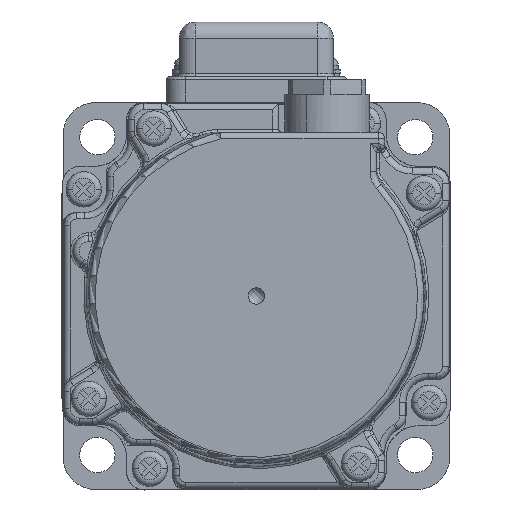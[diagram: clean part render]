
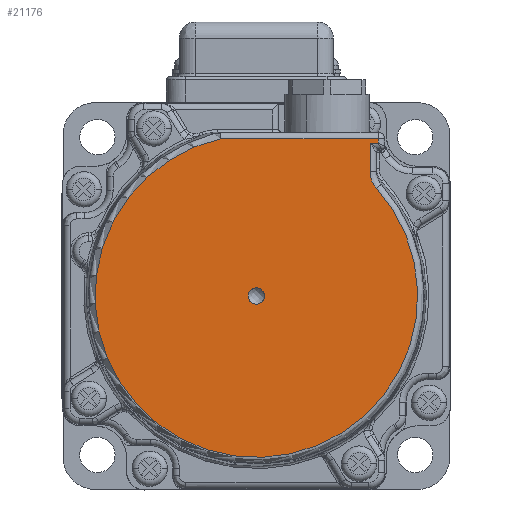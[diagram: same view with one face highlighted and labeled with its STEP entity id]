
A CAD part, left-side view. The second image highlights one B-rep face of the part: STEP entity #21176.
In plain terms, the highlighted planar face has unit normal (-1, 0, 0).
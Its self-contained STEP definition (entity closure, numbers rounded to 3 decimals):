
#4446=DIRECTION('',(0.,-1.,0.));
#4447=VECTOR('',#4446,24.57);
#4448=CARTESIAN_POINT('',(-107.,5.57,24.5));
#4449=LINE('',#4448,#4447);
#4469=CARTESIAN_POINT('',(-107.,-18.721,
16.757));
#4470=CARTESIAN_POINT('',(-107.,-18.501,
17.005));
#4471=CARTESIAN_POINT('',(-107.,-18.132,
17.533));
#4472=CARTESIAN_POINT('',(-107.,-17.778,18.458));
#4473=CARTESIAN_POINT('',(-107.,-17.701,19.097));
#4474=CARTESIAN_POINT('',(-107.,-17.7,19.429));
#4476=CARTESIAN_POINT('',(-107.,0.,0.));
#4477=DIRECTION('',(-1.,0.,0.));
#4478=DIRECTION('',(0.,0.304,-0.953));
#4479=AXIS2_PLACEMENT_3D('',#4476,#4477,#4478);
#4481=CARTESIAN_POINT('',(-107.,0.,0.));
#4482=DIRECTION('',(-1.,0.,0.));
#4483=DIRECTION('',(0.,0.222,0.975));
#4484=AXIS2_PLACEMENT_3D('',#4481,#4482,#4483);
#4486=CARTESIAN_POINT('',(-107.,1.269,
0.));
#4487=CARTESIAN_POINT('',(-107.,1.269,
0.137));
#4488=CARTESIAN_POINT('',(-107.,1.226,
0.397));
#4489=CARTESIAN_POINT('',(-107.,1.044,
0.759));
#4490=CARTESIAN_POINT('',(-107.,0.759,
1.043));
#4491=CARTESIAN_POINT('',(-107.,0.398,
1.226));
#4492=CARTESIAN_POINT('',(-107.,0.138,
1.269));
#4493=CARTESIAN_POINT('',(-107.,0.,
1.269));
#4495=CARTESIAN_POINT('',(-107.,0.,
-1.269));
#4496=CARTESIAN_POINT('',(-107.,0.138,
-1.269));
#4497=CARTESIAN_POINT('',(-107.,0.398,
-1.226));
#4498=CARTESIAN_POINT('',(-107.,0.759,
-1.043));
#4499=CARTESIAN_POINT('',(-107.,1.043,
-0.759));
#4500=CARTESIAN_POINT('',(-107.,1.226,
-0.398));
#4501=CARTESIAN_POINT('',(-107.,1.269,
-0.138));
#4502=CARTESIAN_POINT('',(-107.,1.269,
0.));
#4504=CARTESIAN_POINT('',(-107.,-1.269,
0.));
#4505=CARTESIAN_POINT('',(-107.,-1.269,
-0.138));
#4506=CARTESIAN_POINT('',(-107.,-1.226,
-0.398));
#4507=CARTESIAN_POINT('',(-107.,-1.043,
-0.759));
#4508=CARTESIAN_POINT('',(-107.,-0.759,
-1.043));
#4509=CARTESIAN_POINT('',(-107.,-0.398,
-1.226));
#4510=CARTESIAN_POINT('',(-107.,-0.138,
-1.269));
#4511=CARTESIAN_POINT('',(-107.,0.,
-1.269));
#4513=CARTESIAN_POINT('',(-107.,0.,
1.269));
#4514=CARTESIAN_POINT('',(-107.,-0.138,
1.269));
#4515=CARTESIAN_POINT('',(-107.,-0.398,
1.226));
#4516=CARTESIAN_POINT('',(-107.,-0.759,
1.043));
#4517=CARTESIAN_POINT('',(-107.,-1.043,
0.759));
#4518=CARTESIAN_POINT('',(-107.,-1.226,
0.398));
#4519=CARTESIAN_POINT('',(-107.,-1.269,
0.138));
#4520=CARTESIAN_POINT('',(-107.,-1.269,
0.));
#4531=DIRECTION('',(0.,0.,-1.));
#4532=VECTOR('',#4531,4.371);
#4533=CARTESIAN_POINT('',(-107.,-17.7,23.8));
#4534=LINE('',#4533,#4532);
#10881=DIRECTION('',(0.,0.,-1.));
#10882=VECTOR('',#10881,0.7);
#10883=CARTESIAN_POINT('',(-107.,-19.,
24.5));
#10884=LINE('',#10883,#10882);
#10885=DIRECTION('',(0.,1.,0.));
#10886=VECTOR('',#10885,1.3);
#10887=CARTESIAN_POINT('',(-107.,-19.,23.8));
#10888=LINE('',#10887,#10886);
#14444=CARTESIAN_POINT('',(-107.,-17.7,23.8));
#14445=CARTESIAN_POINT('',(-107.,-17.7,19.429));
#14446=VERTEX_POINT('',#14444);
#14447=VERTEX_POINT('',#14445);
#14448=CARTESIAN_POINT('',(-107.,-19.,23.8));
#14449=VERTEX_POINT('',#14448);
#14450=CARTESIAN_POINT('',(-107.,-19.,
24.5));
#14451=VERTEX_POINT('',#14450);
#14452=CARTESIAN_POINT('',(-107.,5.57,24.5));
#14453=VERTEX_POINT('',#14452);
#14454=CARTESIAN_POINT('',(-107.,7.63,
-23.938));
#14455=VERTEX_POINT('',#14454);
#14456=CARTESIAN_POINT('',(-107.,-18.721,
16.757));
#14457=VERTEX_POINT('',#14456);
#14458=VERTEX_POINT('',#4486);
#14459=VERTEX_POINT('',#4493);
#14460=VERTEX_POINT('',#4520);
#14461=VERTEX_POINT('',#4511);
#21146=CARTESIAN_POINT('',(-107.,-0.007,-0.313));
#21147=DIRECTION('',(1.,0.,0.));
#21148=DIRECTION('',(0.,0.,1.));
#21149=AXIS2_PLACEMENT_3D('',#21146,#21147,#21148);
#21150=PLANE('',#21149);
#21152=ORIENTED_EDGE('',*,*,#21151,.T.);
#21154=ORIENTED_EDGE('',*,*,#21153,.F.);
#21156=ORIENTED_EDGE('',*,*,#21155,.F.);
#21158=ORIENTED_EDGE('',*,*,#21157,.F.);
#21159=ORIENTED_EDGE('',*,*,#21131,.T.);
#21161=ORIENTED_EDGE('',*,*,#21160,.T.);
#21163=ORIENTED_EDGE('',*,*,#21162,.T.);
#21164=EDGE_LOOP('',(#21152,#21154,#21156,#21158,#21159,#21161,#21163));
#21165=FACE_OUTER_BOUND('',#21164,.F.);
#21167=ORIENTED_EDGE('',*,*,#21166,.F.);
#21169=ORIENTED_EDGE('',*,*,#21168,.F.);
#21171=ORIENTED_EDGE('',*,*,#21170,.F.);
#21173=ORIENTED_EDGE('',*,*,#21172,.F.);
#21174=EDGE_LOOP('',(#21167,#21169,#21171,#21173));
#21175=FACE_BOUND('',#21174,.F.);
#4475=B_SPLINE_CURVE_WITH_KNOTS('',3,(#4469,#4470,#4471,#4472,#4473,#4474),
.UNSPECIFIED.,.F.,.F.,(4,1,1,4),(0.,0.333,0.667,1.),
.UNSPECIFIED.);
#4480=CIRCLE('',#4479,25.125);
#4485=CIRCLE('',#4484,25.125);
#4494=B_SPLINE_CURVE_WITH_KNOTS('',3,(#4486,#4487,#4488,#4489,#4490,#4491,#4492,
#4493),.UNSPECIFIED.,.F.,.F.,(4,1,1,1,1,4),(0.,0.2,0.4,0.6,0.8,1.),
.UNSPECIFIED.);
#4503=B_SPLINE_CURVE_WITH_KNOTS('',3,(#4495,#4496,#4497,#4498,#4499,#4500,#4501,
#4502),.UNSPECIFIED.,.F.,.F.,(4,1,1,1,1,4),(0.,0.2,0.4,0.6,0.8,1.),
.UNSPECIFIED.);
#4512=B_SPLINE_CURVE_WITH_KNOTS('',3,(#4504,#4505,#4506,#4507,#4508,#4509,#4510,
#4511),.UNSPECIFIED.,.F.,.F.,(4,1,1,1,1,4),(0.,0.2,0.4,0.6,0.8,1.),
.UNSPECIFIED.);
#4521=B_SPLINE_CURVE_WITH_KNOTS('',3,(#4513,#4514,#4515,#4516,#4517,#4518,#4519,
#4520),.UNSPECIFIED.,.F.,.F.,(4,1,1,1,1,4),(0.,0.2,0.4,0.6,0.8,1.),
.UNSPECIFIED.);
#21131=EDGE_CURVE('',#14453,#14451,#4449,.T.);
#21151=EDGE_CURVE('',#14446,#14447,#4534,.T.);
#21153=EDGE_CURVE('',#14457,#14447,#4475,.T.);
#21155=EDGE_CURVE('',#14455,#14457,#4480,.T.);
#21157=EDGE_CURVE('',#14453,#14455,#4485,.T.);
#21160=EDGE_CURVE('',#14451,#14449,#10884,.T.);
#21162=EDGE_CURVE('',#14449,#14446,#10888,.T.);
#21166=EDGE_CURVE('',#14458,#14459,#4494,.T.);
#21168=EDGE_CURVE('',#14461,#14458,#4503,.T.);
#21170=EDGE_CURVE('',#14460,#14461,#4512,.T.);
#21172=EDGE_CURVE('',#14459,#14460,#4521,.T.);
#21176=ADVANCED_FACE('',(#21165,#21175),#21150,.F.);
